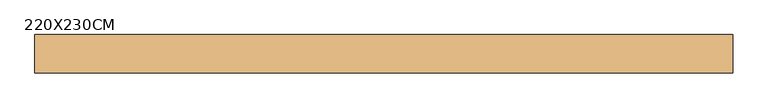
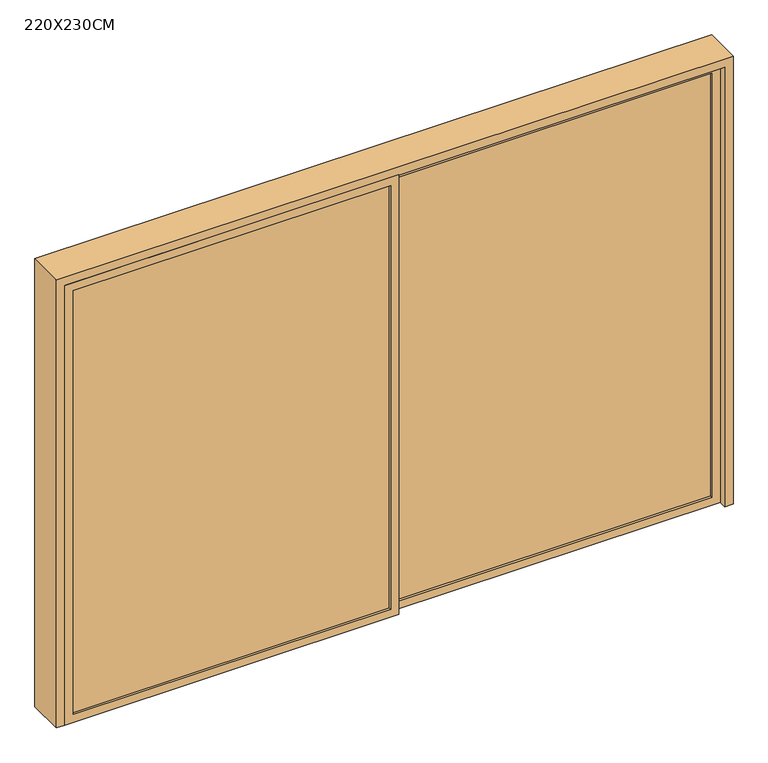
"""IFC4 building model written with IfcOpenShell, lengths in millimetres: door geometry, Porta de correr dupla envidraçada sem revestimento : 220X230CM."""

from ifc_helpers import new_model, si_unit, point, frame, frame_2d, origin, place, context, project, spatial, polyline, circle_curve, trimmed, segment, composite_curve, outline, extrude, source, transform, mapped, element, save


def door_220x230cm_0e1d1353(model_context):
    return source(origin(), model_context, "Body", "SweptSolid", [
        extrude(outline(composite_curve([segment(trimmed(circle_curve(frame_2d((990.0, -10.0)), 10.0), [point((1000.0, -10.0))], [point((990.0, -20.0))], False, "CARTESIAN"), True, "CONTINUOUS"), segment(polyline([(990.0, -20.0), (810.0, -20.0)]), True, "CONTINUOUS"), segment(trimmed(circle_curve(frame_2d((810.0, -10.0)), 10.0), [point((810.0, -20.0))], [point((800.0, -10.0))], False, "CARTESIAN"), True, "CONTINUOUS"), segment(polyline([(800.0, -10.0), (800.0, 10.0)]), True, "CONTINUOUS"), segment(trimmed(circle_curve(frame_2d((810.0, 10.0)), 10.0), [point((800.0, 10.0))], [point((810.0, 20.0))], False, "CARTESIAN"), True, "CONTINUOUS"), segment(polyline([(810.0, 20.0), (990.0, 20.0)]), True, "CONTINUOUS"), segment(trimmed(circle_curve(frame_2d((990.0, 10.0)), 10.0), [point((990.0, 20.0))], [point((1000.0, 10.0))], False, "CARTESIAN"), True, "CONTINUOUS"), segment(polyline([(1000.0, 10.0), (1000.0, -10.0)]), True, "CONTINUOUS")], self_intersect=False), holes=[composite_curve([segment(trimmed(circle_curve(frame_2d((985.0, 0.0)), 5.0), [point((985.0, -5.0))], [point((985.0, 5.0))], True, "CARTESIAN"), True, "CONTINUOUS"), segment(trimmed(circle_curve(frame_2d((985.0, 0.0)), 5.0), [point((985.0, 5.0))], [point((985.0, -5.0))], True, "CARTESIAN"), True, "CONTINUOUS")], self_intersect=False), composite_curve([segment(trimmed(circle_curve(frame_2d((815.0, 0.0)), 5.0), [point((815.0, -5.0))], [point((815.0, 5.0))], True, "CARTESIAN"), True, "CONTINUOUS"), segment(trimmed(circle_curve(frame_2d((815.0, 0.0)), 5.0), [point((815.0, 5.0))], [point((815.0, -5.0))], True, "CARTESIAN"), True, "CONTINUOUS")], self_intersect=False), composite_curve([segment(polyline([(960.0, -10.0), (960.0, 10.0)]), True, "CONTINUOUS"), segment(trimmed(circle_curve(frame_2d((955.0, 10.0)), 5.0), [point((960.0, 10.0))], [point((955.0, 15.0))], True, "CARTESIAN"), True, "CONTINUOUS"), segment(polyline([(955.0, 15.0), (845.0, 15.0)]), True, "CONTINUOUS"), segment(trimmed(circle_curve(frame_2d((845.0, 10.0)), 5.0), [point((845.0, 15.0))], [point((840.0, 10.0))], True, "CARTESIAN"), True, "CONTINUOUS"), segment(polyline([(840.0, 10.0), (840.0, -10.0)]), True, "CONTINUOUS"), segment(trimmed(circle_curve(frame_2d((845.0, -10.0)), 5.0), [point((840.0, -10.0))], [point((845.0, -15.0))], True, "CARTESIAN"), True, "CONTINUOUS"), segment(polyline([(845.0, -15.0), (955.0, -15.0)]), True, "CONTINUOUS"), segment(trimmed(circle_curve(frame_2d((955.0, -10.0)), 5.0), [point((955.0, -15.0))], [point((960.0, -10.0))], True, "CARTESIAN"), True, "CONTINUOUS")], self_intersect=False)]), frame((0.0, -25.0, 0.0), z_axis=(0.0, 1.0, 0.0), x_axis=(0.0, 0.0, 1.0)), (0.0, 0.0, 1.0), 3.0),
        extrude(outline(polyline([(2750.0, -1950.0), (0.0, -1950.0), (0.0, 25.0), (2750.0, 25.0), (2750.0, -1950.0)]), holes=[polyline([(2700.0, -25.0), (50.0, -25.0), (50.0, -1900.0), (2700.0, -1900.0), (2700.0, -25.0)])]), frame((0.0, -110.0, 0.0), z_axis=(0.0, 1.0, 0.0), x_axis=(0.0, 0.0, 1.0)), (0.0, 0.0, 1.0), 40.0),
        extrude(outline(polyline([(2750.0, -25.0), (0.0, -25.0), (0.0, 1950.0), (2750.0, 1950.0), (2750.0, -25.0)]), holes=[polyline([(2700.0, 1900.0), (50.0, 1900.0), (50.0, 25.0), (2700.0, 25.0), (2700.0, 1900.0)])]), frame((0.0, -65.0, 0.0), z_axis=(0.0, 1.0, 0.0), x_axis=(0.0, 0.0, 1.0)), (0.0, 0.0, 1.0), 40.0),
        extrude(outline(polyline([(0.0, 1950.0), (0.0, 2000.0), (2800.0, 2000.0), (2800.0, -2000.0), (0.0, -2000.0), (0.0, -1950.0), (2750.0, -1950.0), (2750.0, 1950.0), (0.0, 1950.0)])), frame((0.0, -110.0, 0.0), z_axis=(0.0, 1.0, 0.0), x_axis=(0.0, 0.0, 1.0)), (0.0, 0.0, 1.0), 220.0),
        extrude(outline(polyline([(-25.0, -83.0), (-25.0, -97.0), (-1900.0, -97.0), (-1900.0, -83.0), (-25.0, -83.0)])), frame((0.0, 0.0, 50.0), z_axis=(0.0, 0.0, 1.0), x_axis=(1.0, 0.0, 0.0)), (0.0, 0.0, 1.0), 2650.0),
        extrude(outline(polyline([(1900.0, -38.0), (1900.0, -52.0), (25.0, -52.0), (25.0, -38.0), (1900.0, -38.0)])), frame((0.0, 0.0, 50.0), z_axis=(0.0, 0.0, 1.0), x_axis=(1.0, 0.0, 0.0)), (0.0, 0.0, 1.0), 2650.0),
        extrude(outline(polyline([(-1900.0, -83.0), (-25.0, -83.0), (-25.0, -97.0), (-1900.0, -97.0), (-1900.0, -83.0)])), frame((0.0, 0.0, 50.0), z_axis=(0.0, 0.0, 1.0), x_axis=(1.0, 0.0, 0.0)), (0.0, 0.0, 1.0), 2650.0),
        extrude(outline(polyline([(1900.0, -38.0), (1900.0, -52.0), (25.0, -52.0), (25.0, -38.0), (1900.0, -38.0)])), frame((0.0, 0.0, 50.0), z_axis=(0.0, 0.0, 1.0), x_axis=(1.0, 0.0, 0.0)), (0.0, 0.0, 1.0), 2650.0),
    ])


if __name__ == "__main__":
    model = new_model("IFC4")
    model_context = context("Model", 3, world=origin())
    ifc_project = project(units=[si_unit("LENGTHUNIT", "METRE", prefix="MILLI")], contexts=[model_context])
    site = spatial("IfcSite", under=ifc_project)
    building = spatial("IfcBuilding", under=site)
    placement = place(None, origin())
    door_220x230cm_shape = door_220x230cm_0e1d1353(model_context)
    element("IfcDoor", 1, ObjectType="Porta de correr dupla envidraçada sem revestimento : 220X230CM", at=placement, inside=building, context=model_context, shape_type="MappedRepresentation", body=[
        mapped(door_220x230cm_shape, transform((0.0, 0.0, 0.0), x_axis=(1.0, 0.0, 0.0), y_axis=(0.0, 1.0, 0.0), z_axis=(0.0, 0.0, 1.0))),
    ])
    save(model, "model.ifc")
